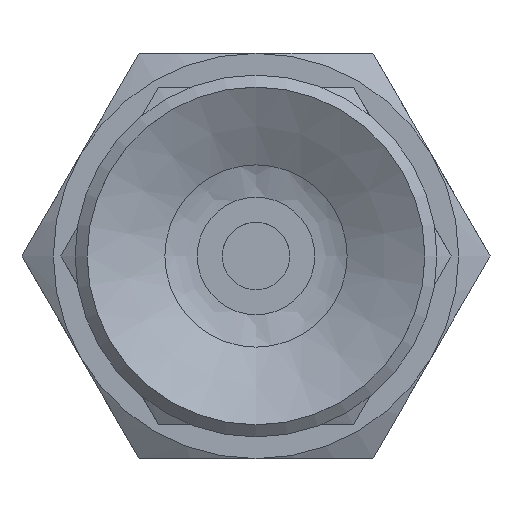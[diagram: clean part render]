
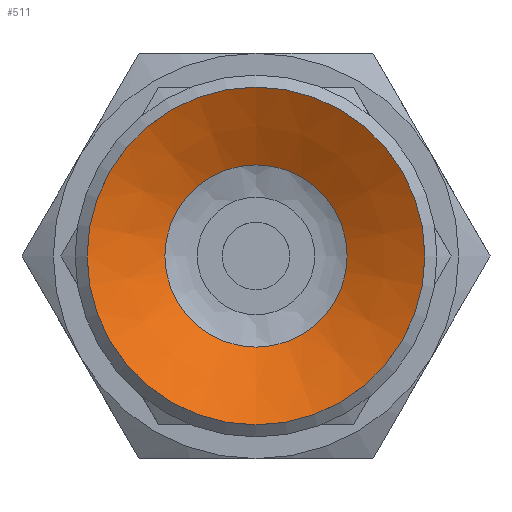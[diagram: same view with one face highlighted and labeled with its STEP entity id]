
A CAD part, front view. The second image highlights one B-rep face of the part: STEP entity #511.
In plain terms, the highlighted conical face has half-angle 61.39 degrees and reference radius 2.25 mm.
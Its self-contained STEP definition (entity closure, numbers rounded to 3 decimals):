
#511=ADVANCED_FACE('',(#795,#796),#797,.F.);
#795=FACE_BOUND('',#1116,.T.);
#796=FACE_OUTER_BOUND('',#1117,.T.);
#797=CONICAL_SURFACE('',#1118,2.25,1.071);
#1116=EDGE_LOOP('',(#1875));
#1117=EDGE_LOOP('',(#1876));
#1118=AXIS2_PLACEMENT_3D('',#1877,#1878,#1879);
#1875=ORIENTED_EDGE('',*,*,#2092,.T.);
#1876=ORIENTED_EDGE('',*,*,#2093,.T.);
#1877=CARTESIAN_POINT('',(0.0,1.5,0.0));
#1878=DIRECTION('',(-0.0,-1.0,0.));
#1879=DIRECTION('',(0.0,0.,-1.0));
#2092=EDGE_CURVE('',#2446,#2446,#2447,.T.);
#2093=EDGE_CURVE('',#2448,#2448,#2449,.T.);
#2446=VERTEX_POINT('',#3226);
#2447=CIRCLE('',#3227,2.698);
#2448=VERTEX_POINT('',#3228);
#2449=CIRCLE('',#3229,5.);
#3226=CARTESIAN_POINT('',(0.0,1.256,-2.698));
#3227=AXIS2_PLACEMENT_3D('',#3537,#3538,#3539);
#3228=CARTESIAN_POINT('',(0.0,0.,-5.));
#3229=AXIS2_PLACEMENT_3D('',#3540,#3541,#3542);
#3537=CARTESIAN_POINT('',(0.0,1.256,0.0));
#3538=DIRECTION('',(0.0,1.0,0.));
#3539=DIRECTION('',(0.0,0.,-1.0));
#3540=CARTESIAN_POINT('',(0.0,0.0,0.0));
#3541=DIRECTION('',(0.0,-1.0,0.));
#3542=DIRECTION('',(0.0,0.,-1.0));
